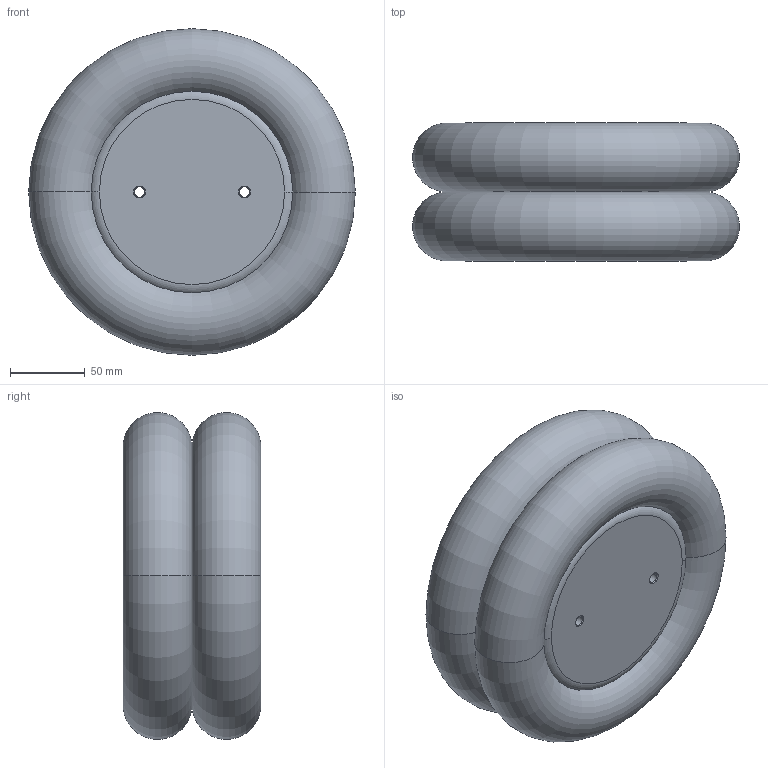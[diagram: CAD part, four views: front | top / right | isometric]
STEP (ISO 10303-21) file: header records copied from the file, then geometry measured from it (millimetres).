
FILE_DESCRIPTION((''),'2;1');
FILE_NAME('1922161000_MIN','2023-08-03T10:47:10',('VAU3HC'),(''),'CREO PARAMETRIC BY PTC INC, 2020044','CREO PARAMETRIC BY PTC INC, 2020044','');
FILE_SCHEMA(('CONFIG_CONTROL_DESIGN','SHAPE_APPEARANCE_LAYERS_GROUPS'));
Length unit declared in the file: millimetre
Products named in the file (1): 1922161000_MIN
Bounding box: 217.86 x 91.91 x 217.86 mm (x, y, z)
Volume: 2537315.6 mm3; surface area: 205770.5 mm2
Topology: 1 solids, 1 shells, 44 faces, 94 edges, 58 vertices
Faces by surface type: cylinder 18, cone 10, plane 8, torus 8
Entity records: 2106 total; most frequent: DIRECTION 248, CARTESIAN_POINT 196, ORIENTED_EDGE 188, PRESENTATION_STYLE_ASSIGNMENT 139, AXIS2_PLACEMENT_3D 110, STYLED_ITEM 95, CURVE_STYLE 94, EDGE_CURVE 94
